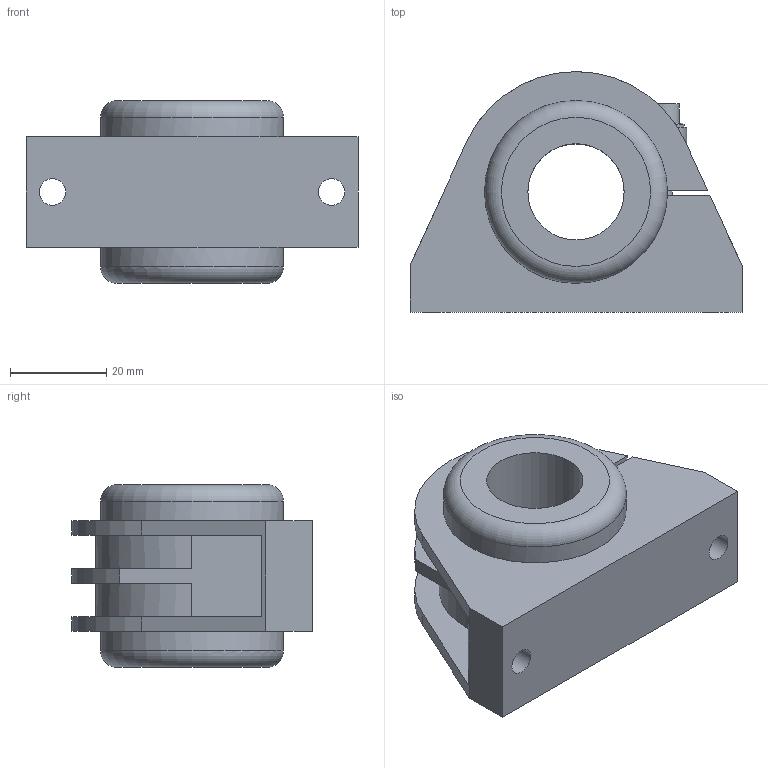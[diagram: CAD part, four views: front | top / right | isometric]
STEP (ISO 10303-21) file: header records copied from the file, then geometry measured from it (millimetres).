
FILE_DESCRIPTION(('STEP AP203'),'1');
FILE_NAME('//192.168.1.1/share/s-4 技術開発/s-4-4_CAD/s-4-4-3_見直し済み/008 修正済み/DLS/DLS_TOP/DLS-20.step','2022-02-18T05:48:12',(' '),(' '),'Spatial InterOp 3D',' ',' ');
FILE_SCHEMA(('CONFIG_CONTROL_DESIGN'));
Length unit declared in the file: millimetre
Products named in the file (1): 1
Bounding box: 69 x 50 x 38 mm (x, y, z)
Volume: 53861.8 mm3; surface area: 15860.8 mm2
Topology: 1 solids, 1 shells, 61 faces, 164 edges, 108 vertices
Faces by surface type: plane 41, cylinder 17, torus 2, cone 1
Full cylindrical faces by diameter (mm): 4 x1, 5.5 x2, 7 x1, 9 x1, 20 x1, 38 x2
Entity records: 1865 total; most frequent: CARTESIAN_POINT 327, DIRECTION 311, ORIENTED_EDGE 292, EDGE_CURVE 146, AXIS2_PLACEMENT_3D 105, VERTEX_POINT 101, LINE 101, VECTOR 101
